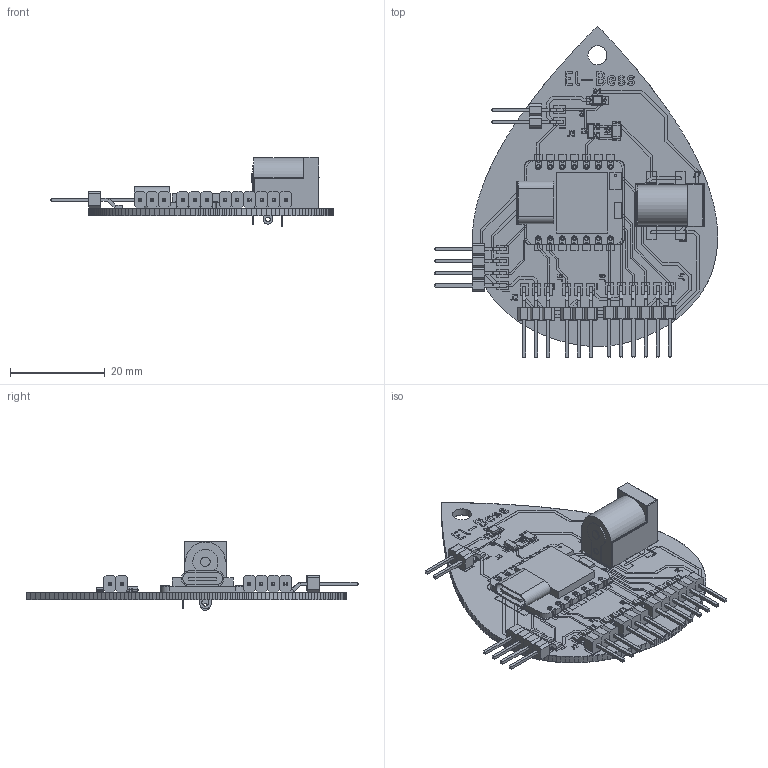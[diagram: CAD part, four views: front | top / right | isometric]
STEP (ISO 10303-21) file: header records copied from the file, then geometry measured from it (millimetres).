
FILE_DESCRIPTION(('KiCad electronic assembly'),'2;1');
FILE_NAME('Planty Final Final PCB.step','2025-05-26T15:59:58',('Pcbnew') ,('Kicad'),'Open CASCADE STEP processor 7.8','KiCad to STEP converter' ,'Unknown');
FILE_SCHEMA(('AUTOMOTIVE_DESIGN { 1 0 10303 214 1 1 1 1 }'));
Length unit declared in the file: millimetre
Products named in the file (52): Planty Final Final PCB 1; SI2302; LED-1206; Base; Emmiter; Contact_1; Contact_2; Header_SMD_01x02_P2.54mm_Horizontal_Male; Planty Final Final PCB 1.3.1; Planty Final Final PCB 1.3.2; Header_SMD_01x04_P2.54mm_Horizontal_Male; Planty Final Final PCB 1.4.1; Planty Final Final PCB 1.4.2; Header_SMD_01x03_P2.54mm_Horizontal_Male; Planty Final Final PCB 1.5.1; Planty Final Final PCB 1.5.2; BarrelJack_Horizontal; Seeed_XIAO-nRF52840_Sense; SoC_nRF_Sense; Mic_nRF_Sense; Antenna_nRF_Sense; XIAO_Generic; Board; USB; Contact; Contact Clones; Body007; Body008; Body009; Body010; Body011; Body012; Body013; Body014; Body015; Body016; Body017; Body018; Body019; Header_SMD_01x06_P2.54mm_Horizontal_Male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
Assembly tree (52 placements, depth 5):
  Planty Final Final PCB 1
    SI2302
    LED-1206
      Base
      Emmiter
      Contact_1
      Contact_2
    Header_SMD_01x02_P2.54mm_Horizontal_Male
      Planty Final Final PCB 1.3.1
      Planty Final Final PCB 1.3.2
    Header_SMD_01x04_P2.54mm_Horizontal_Male
      Planty Final Final PCB 1.4.1
      Planty Final Final PCB 1.4.2
    Header_SMD_01x03_P2.54mm_Horizontal_Male  x2
      Planty Final Final PCB 1.5.1
      Planty Final Final PCB 1.5.2
    BarrelJack_Horizontal
    Seeed_XIAO-nRF52840_Sense
      SoC_nRF_Sense
      Mic_nRF_Sense
      Antenna_nRF_Sense
      XIAO_Generic
        Board
        USB
        Contact
        Contact Clones
          Body007
          Body008
          Body009
          Body010
          Body011
          Body012
          Body013
          Body014
          Body015
          Body016
          Body017
          Body018
          Body019
    Header_SMD_01x06_P2.54mm_Horizontal_Male
      Planty Final Final PCB 1.9.1
      Planty Final Final PCB 1.9.2
    Resistor-1206
      Ceramic
      Contacts
      Contacts (Mirror #1)
      Overcoat
    Planty Final PCB_copper
    Planty Final PCB_pad
    Planty Final PCB_silkscreen
    Planty Final PCB_soldermask
    Planty Final PCB_PCB
Bounding box: 59.8 x 70.1 x 14.6 mm (x, y, z)
Volume: 5646.7 mm3; surface area: 15684 mm2
Topology: 136 solids, 180 shells, 2496 faces, 7183 edges, 5004 vertices
Faces by surface type: plane 2202, cylinder 251, revolution 36, sphere 5, extrusion 2
Full cylindrical faces by diameter (mm): 0.5 x1, 0.7 x14, 0.8 x28, 1 x2, 1.5 x2, 2 x4, 4 x1, 6.3 x1
Entity records: 80251 total; most frequent: CARTESIAN_POINT 14242, ORIENTED_EDGE 12715, DIRECTION 12623, EDGE_CURVE 6908, VECTOR 6031, LINE 6029, VERTEX_POINT 4848, AXIS2_PLACEMENT_3D 3281
